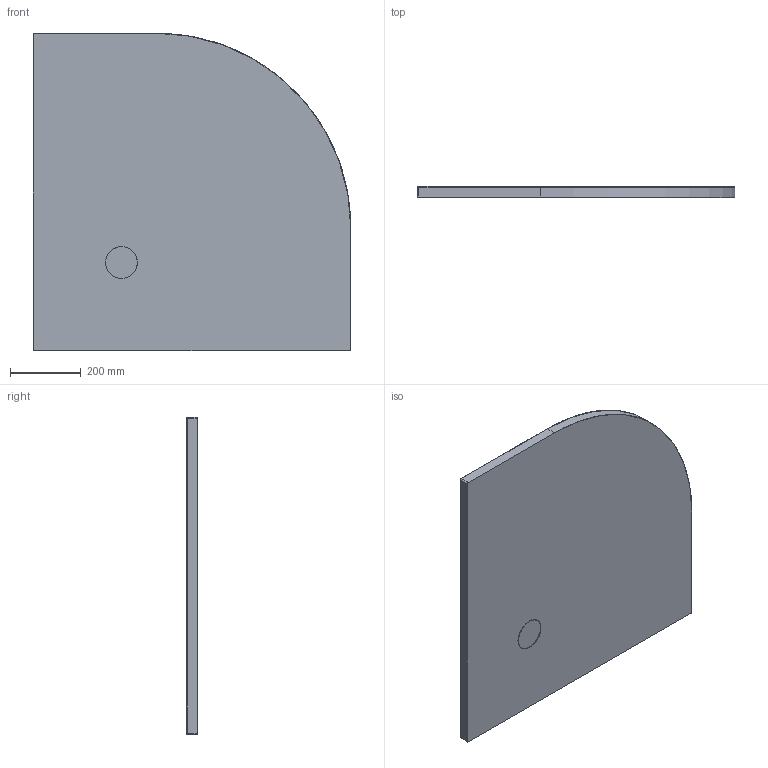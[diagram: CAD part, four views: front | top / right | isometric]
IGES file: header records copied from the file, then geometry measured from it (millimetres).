
Start section: SolidWorks IGES file using analytic representation for surfaces
Global section: file name: D:\Users\M.Szymanski\Desktop\Brodziki\Nias\BP_M_NIAS_90x90x1,5.IGS; native system: SolidWorks 2011; preprocessor: SolidWorks 2011; author: M.Szymanski; date: 180223.091531; units: millimetre
Bounding box: 900 x 30 x 900 mm (x, y, z)
Surface area: 1611529.1 mm2 (no closed solid volume)
Topology: 0 solids, 0 shells, 72 faces, 844 edges, 843 vertices
Faces by surface type: bspline 46, revolution 26
